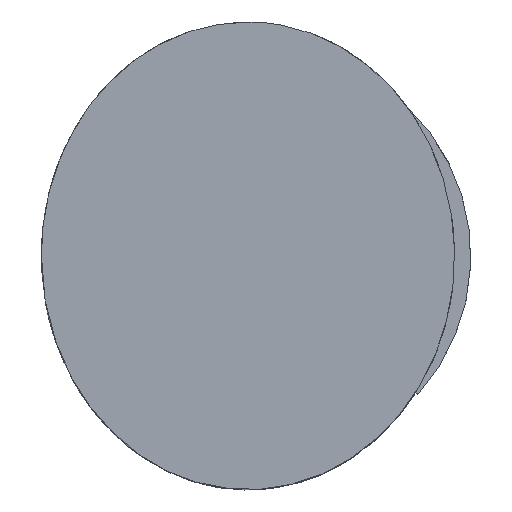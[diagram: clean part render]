
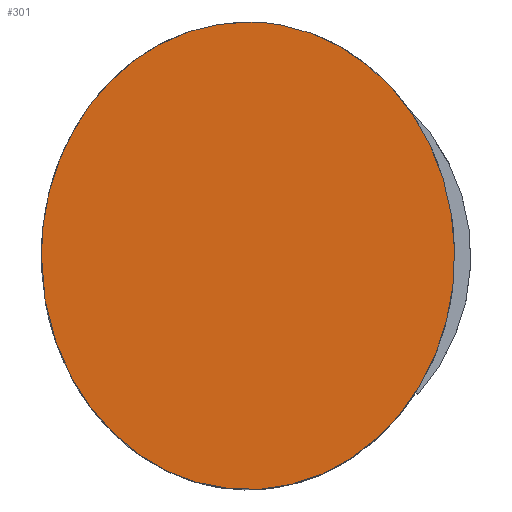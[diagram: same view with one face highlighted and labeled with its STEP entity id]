
A CAD part, top view. The second image highlights one B-rep face of the part: STEP entity #301.
In plain terms, the highlighted planar face has unit normal (0, 0, 1).
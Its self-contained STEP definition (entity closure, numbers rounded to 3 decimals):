
#19=ELLIPSE('',#353,21.5,19.);
#20=ELLIPSE('',#354,21.5,19.);
#44=PLANE('',#359);
#80=FACE_OUTER_BOUND('',#117,.T.);
#117=EDGE_LOOP('',(#263,#264));
#165=VERTEX_POINT('',#558);
#166=VERTEX_POINT('',#559);
#196=EDGE_CURVE('',#165,#166,#19,.T.);
#197=EDGE_CURVE('',#166,#165,#20,.T.);
#263=ORIENTED_EDGE('',*,*,#196,.T.);
#264=ORIENTED_EDGE('',*,*,#197,.T.);
#301=ADVANCED_FACE('',(#80),#44,.T.);
#353=AXIS2_PLACEMENT_3D('',#560,#452,#453);
#354=AXIS2_PLACEMENT_3D('',#561,#454,#455);
#359=AXIS2_PLACEMENT_3D('',#569,#464,#465);
#452=DIRECTION('center_axis',(0.,0.,1.));
#453=DIRECTION('ref_axis',(0.,-1.,0.));
#454=DIRECTION('center_axis',(0.,0.,1.));
#455=DIRECTION('ref_axis',(0.,-1.,0.));
#464=DIRECTION('center_axis',(0.,0.,1.));
#465=DIRECTION('ref_axis',(1.,0.,0.));
#558=CARTESIAN_POINT('',(-20.5,0.,24.));
#559=CARTESIAN_POINT('',(-1.5,21.5,24.));
#560=CARTESIAN_POINT('Origin',(-1.5,0.,24.));
#561=CARTESIAN_POINT('Origin',(-1.5,0.,24.));
#569=CARTESIAN_POINT('Origin',(-1.5,0.,24.));
